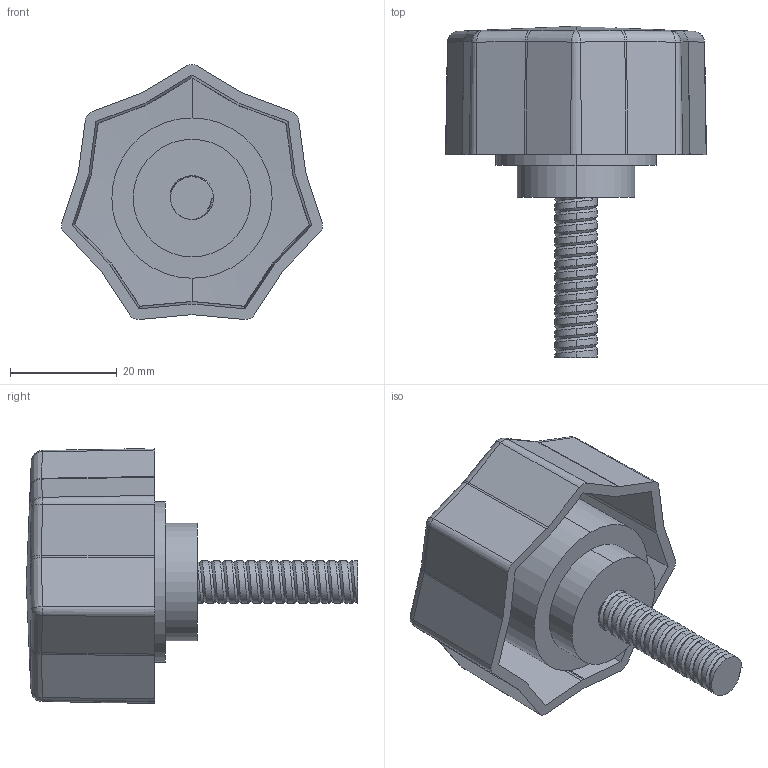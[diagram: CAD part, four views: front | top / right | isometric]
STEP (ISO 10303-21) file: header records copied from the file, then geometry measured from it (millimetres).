
FILE_DESCRIPTION (( 'STEP AP203' ), '1' );
FILE_NAME ('AP-1050-50-M8-30.STEP', '2015-11-23T12:02:55', ( '' ), ( '' ), 'SwSTEP 2.0', 'SolidWorks 2014', '' );
FILE_SCHEMA (( 'CONFIG_CONTROL_DESIGN' ));
Length unit declared in the file: millimetre
Products named in the file (1): AP-1050-50-M8-30
Bounding box: 48.85 x 62 x 47.71 mm (x, y, z)
Volume: 29642 mm3; surface area: 13007.1 mm2
Topology: 1 solids, 1 shells, 147 faces, 375 edges, 224 vertices
Faces by surface type: cylinder 51, bspline 51, plane 34, cone 11
Entity records: 8556 total; most frequent: CARTESIAN_POINT 5626, ORIENTED_EDGE 732, DIRECTION 416, EDGE_CURVE 366, VERTEX_POINT 224, EDGE_LOOP 150, FACE_OUTER_BOUND 147, ADVANCED_FACE 147
